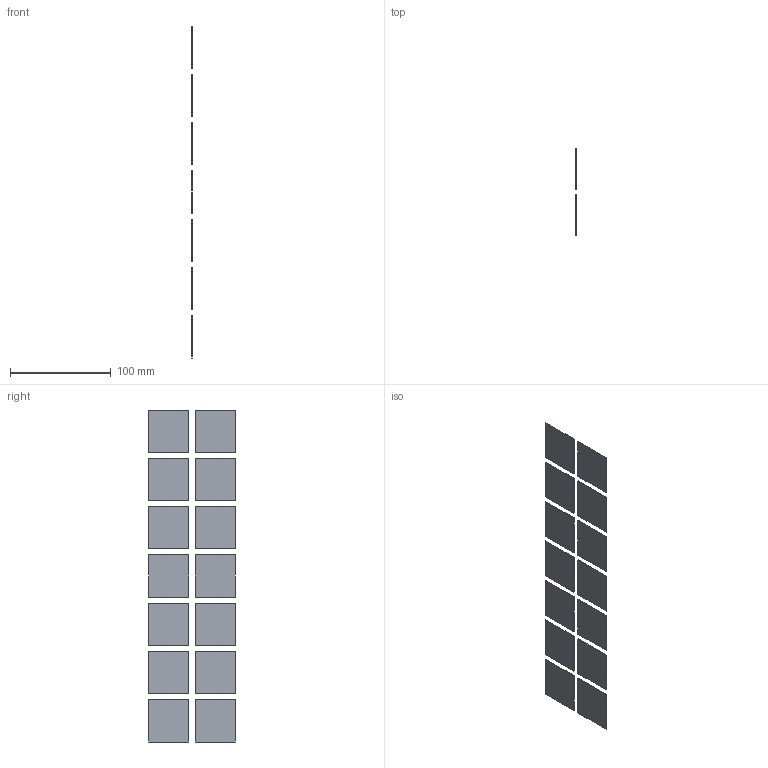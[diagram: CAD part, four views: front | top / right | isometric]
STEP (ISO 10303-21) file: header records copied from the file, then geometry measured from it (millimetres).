
FILE_DESCRIPTION(('Open CASCADE Model'),'2;1');
FILE_NAME('solar_cells','2026-08-12T02:42:46',('Author'),('Open CASCADE' ),'Open CASCADE STEP processor 7.9','build123d','Unknown');
FILE_SCHEMA(('AUTOMOTIVE_DESIGN { 1 0 10303 214 1 1 1 1 }'));
Length unit declared in the file: millimetre
Products named in the file (15): solar_cells; COMPOUND
Assembly tree (14 placements, depth 2):
  solar_cells
    COMPOUND
    COMPOUND
    COMPOUND
    COMPOUND
    COMPOUND
    COMPOUND
    COMPOUND
    COMPOUND
    COMPOUND
    COMPOUND
    COMPOUND
    COMPOUND
    COMPOUND
    COMPOUND
Bounding box: 0.8 x 86 x 330 mm (x, y, z)
Volume: 18816 mm3; surface area: 48876.8 mm2
Topology: 14 solids, 14 shells, 84 faces, 168 edges, 112 vertices
Faces by surface type: plane 84
Entity records: 4552 total; most frequent: CARTESIAN_POINT 715, DIRECTION 702, LINE 504, VECTOR 504, ORIENTED_EDGE 336, PCURVE 336, DEFINITIONAL_REPRESENTATION 336, EDGE_CURVE 168
